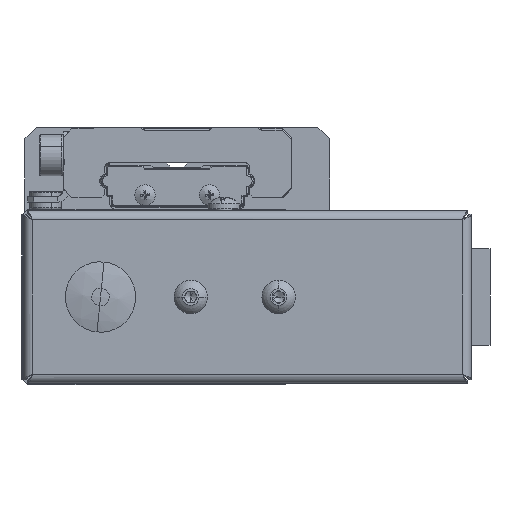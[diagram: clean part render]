
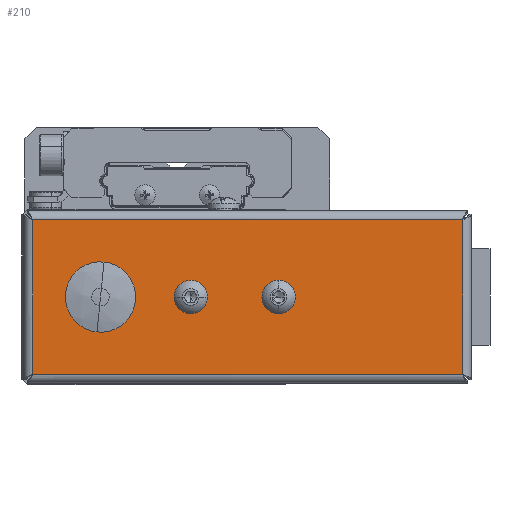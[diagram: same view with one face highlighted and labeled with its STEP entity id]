
A CAD part, left-side view. The second image highlights one B-rep face of the part: STEP entity #210.
In plain terms, the highlighted planar face has unit normal (-1, 0, 0) as drawn and (0, 0, -1) by its records, which use the part's own axes.
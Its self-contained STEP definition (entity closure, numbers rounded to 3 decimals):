
#113 = CARTESIAN_POINT ( 'NONE',  ( 74.9, 27.9, -0.5 ) ) ;
#210 = ADVANCED_FACE ( 'NONE', ( #30352, #11406 ), #25977, .T. ) ;
#2121 = DIRECTION ( 'NONE',  ( -1., 0., 0. ) ) ;
#2480 = DIRECTION ( 'NONE',  ( -1., 0., 0. ) ) ;
#2585 = ORIENTED_EDGE ( 'NONE', *, *, #8667, .F. ) ;
#3656 = VECTOR ( 'NONE', #29517, 1000. ) ;
#3806 = EDGE_CURVE ( 'NONE', #5450, #40675, #20124, .T. ) ;
#4619 = AXIS2_PLACEMENT_3D ( 'NONE', #26731, #29774, #20424 ) ;
#5339 = DIRECTION ( 'NONE',  ( 0., 0., -1. ) ) ;
#5450 = VERTEX_POINT ( 'NONE', #13748 ) ;
#5852 = ORIENTED_EDGE ( 'NONE', *, *, #19925, .T. ) ;
#8236 = VECTOR ( 'NONE', #35432, 1000. ) ;
#8667 = EDGE_CURVE ( 'NONE', #40675, #5450, #36820, .T. ) ;
#10763 = VERTEX_POINT ( 'NONE', #30795 ) ;
#11012 = AXIS2_PLACEMENT_3D ( 'NONE', #33957, #5339, #2121 ) ;
#11275 = EDGE_LOOP ( 'NONE', ( #19712, #5852, #15532, #12909 ) ) ;
#11406 = FACE_OUTER_BOUND ( 'NONE', #11275, .T. ) ;
#12909 = ORIENTED_EDGE ( 'NONE', *, *, #22978, .T. ) ;
#13072 = CARTESIAN_POINT ( 'NONE',  ( 1.5, 0.571, -0.5 ) ) ;
#13346 = ORIENTED_EDGE ( 'NONE', *, *, #3806, .F. ) ;
#13748 = CARTESIAN_POINT ( 'NONE',  ( 67.1, 14.7, -0.5 ) ) ;
#15532 = ORIENTED_EDGE ( 'NONE', *, *, #31116, .T. ) ;
#16595 = DIRECTION ( 'NONE',  ( 0., 0., -1. ) ) ;
#16680 = LINE ( 'NONE', #32212, #8236 ) ;
#17532 = VECTOR ( 'NONE', #2480, 1000. ) ;
#18300 = CARTESIAN_POINT ( 'NONE',  ( 1.5, 27.9, -0.5 ) ) ;
#19136 = CARTESIAN_POINT ( 'NONE',  ( 59.5, 14.7, -0.5 ) ) ;
#19396 = EDGE_CURVE ( 'NONE', #25408, #25978, #27558, .T. ) ;
#19605 = CARTESIAN_POINT ( 'NONE',  ( 74.9, 28.829, -0.5 ) ) ;
#19712 = ORIENTED_EDGE ( 'NONE', *, *, #19396, .T. ) ;
#19925 = EDGE_CURVE ( 'NONE', #25978, #10763, #27038, .T. ) ;
#20124 = CIRCLE ( 'NONE', #11012, 3.8 ) ;
#20424 = DIRECTION ( 'NONE',  ( -1., 0., 0. ) ) ;
#22978 = EDGE_CURVE ( 'NONE', #35671, #25408, #16680, .T. ) ;
#24549 = CARTESIAN_POINT ( 'NONE',  ( 75.829, 1.5, -0.5 ) ) ;
#25408 = VERTEX_POINT ( 'NONE', #113 ) ;
#25978 = VERTEX_POINT ( 'NONE', #37748 ) ;
#25977 = PLANE ( 'NONE',  #38408 ) ;
#26457 = DIRECTION ( 'NONE',  ( 0., -1., 0. ) ) ;
#26731 = CARTESIAN_POINT ( 'NONE',  ( 63.3, 14.7, -0.5 ) ) ;
#27038 = LINE ( 'NONE', #24549, #17532 ) ;
#27558 = LINE ( 'NONE', #19605, #31561 ) ;
#29517 = DIRECTION ( 'NONE',  ( 0., 1., 0. ) ) ;
#29774 = DIRECTION ( 'NONE',  ( 0., 0., -1. ) ) ;
#30352 = FACE_BOUND ( 'NONE', #32258, .T. ) ;
#30795 = CARTESIAN_POINT ( 'NONE',  ( 1.5, 1.5, -0.5 ) ) ;
#31116 = EDGE_CURVE ( 'NONE', #10763, #35671, #40626, .T. ) ;
#31561 = VECTOR ( 'NONE', #26457, 1000. ) ;
#32212 = CARTESIAN_POINT ( 'NONE',  ( 0.571, 27.9, -0.5 ) ) ;
#32258 = EDGE_LOOP ( 'NONE', ( #2585, #13346 ) ) ;
#33957 = CARTESIAN_POINT ( 'NONE',  ( 63.3, 14.7, -0.5 ) ) ;
#35432 = DIRECTION ( 'NONE',  ( 1., 0., 0. ) ) ;
#35671 = VERTEX_POINT ( 'NONE', #18300 ) ;
#36820 = CIRCLE ( 'NONE', #4619, 3.8 ) ;
#37748 = CARTESIAN_POINT ( 'NONE',  ( 74.9, 1.5, -0.5 ) ) ;
#38408 = AXIS2_PLACEMENT_3D ( 'NONE', #39309, #16595, #38910 ) ;
#38910 = DIRECTION ( 'NONE',  ( -1., 0., 0. ) ) ;
#39309 = CARTESIAN_POINT ( 'NONE',  ( 0., 0., -0.5 ) ) ;
#40626 = LINE ( 'NONE', #13072, #3656 ) ;
#40675 = VERTEX_POINT ( 'NONE', #19136 ) ;
